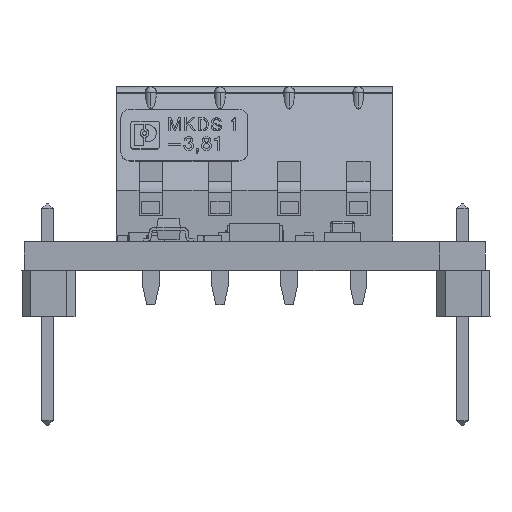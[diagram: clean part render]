
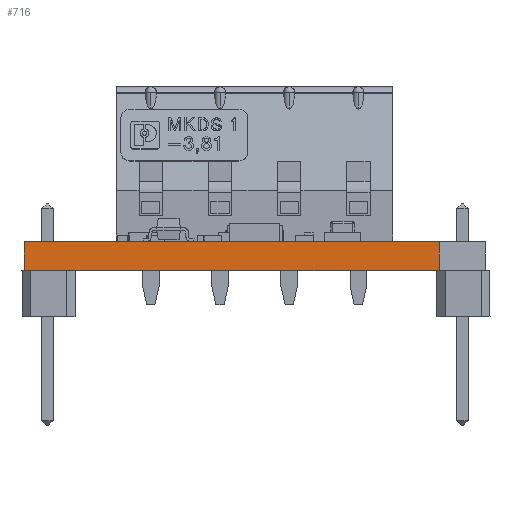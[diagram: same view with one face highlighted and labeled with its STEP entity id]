
A CAD part, front view. The second image highlights one B-rep face of the part: STEP entity #716.
In plain terms, the highlighted planar face has unit normal (0, -1, 0).
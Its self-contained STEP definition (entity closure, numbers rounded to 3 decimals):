
#691 = VERTEX_POINT('',#692);
#692 = CARTESIAN_POINT('',(21.59,-3.81,0.));
#698 = EDGE_CURVE('',#699,#691,#701,.T.);
#699 = VERTEX_POINT('',#700);
#700 = CARTESIAN_POINT('',(21.59,-3.81,-1.59));
#701 = LINE('',#702,#703);
#702 = CARTESIAN_POINT('',(21.59,-3.81,-1.59));
#703 = VECTOR('',#704,1.);
#704 = DIRECTION('',(0.,0.,1.));
#716 = ADVANCED_FACE('',(#717),#742,.T.);
#717 = FACE_BOUND('',#718,.T.);
#718 = EDGE_LOOP('',(#719,#720,#728,#736));
#719 = ORIENTED_EDGE('',*,*,#698,.T.);
#720 = ORIENTED_EDGE('',*,*,#721,.T.);
#721 = EDGE_CURVE('',#691,#722,#724,.T.);
#722 = VERTEX_POINT('',#723);
#723 = CARTESIAN_POINT('',(-1.27,-3.81,0.));
#724 = LINE('',#725,#726);
#725 = CARTESIAN_POINT('',(21.59,-3.81,0.));
#726 = VECTOR('',#727,1.);
#727 = DIRECTION('',(-1.,0.,0.));
#728 = ORIENTED_EDGE('',*,*,#729,.F.);
#729 = EDGE_CURVE('',#730,#722,#732,.T.);
#730 = VERTEX_POINT('',#731);
#731 = CARTESIAN_POINT('',(-1.27,-3.81,-1.59));
#732 = LINE('',#733,#734);
#733 = CARTESIAN_POINT('',(-1.27,-3.81,-1.59));
#734 = VECTOR('',#735,1.);
#735 = DIRECTION('',(0.,0.,1.));
#736 = ORIENTED_EDGE('',*,*,#737,.F.);
#737 = EDGE_CURVE('',#699,#730,#738,.T.);
#738 = LINE('',#739,#740);
#739 = CARTESIAN_POINT('',(21.59,-3.81,-1.59));
#740 = VECTOR('',#741,1.);
#741 = DIRECTION('',(-1.,0.,0.));
#742 = PLANE('',#743);
#743 = AXIS2_PLACEMENT_3D('',#744,#745,#746);
#744 = CARTESIAN_POINT('',(21.59,-3.81,-1.59));
#745 = DIRECTION('',(0.,-1.,0.));
#746 = DIRECTION('',(-1.,0.,0.));
